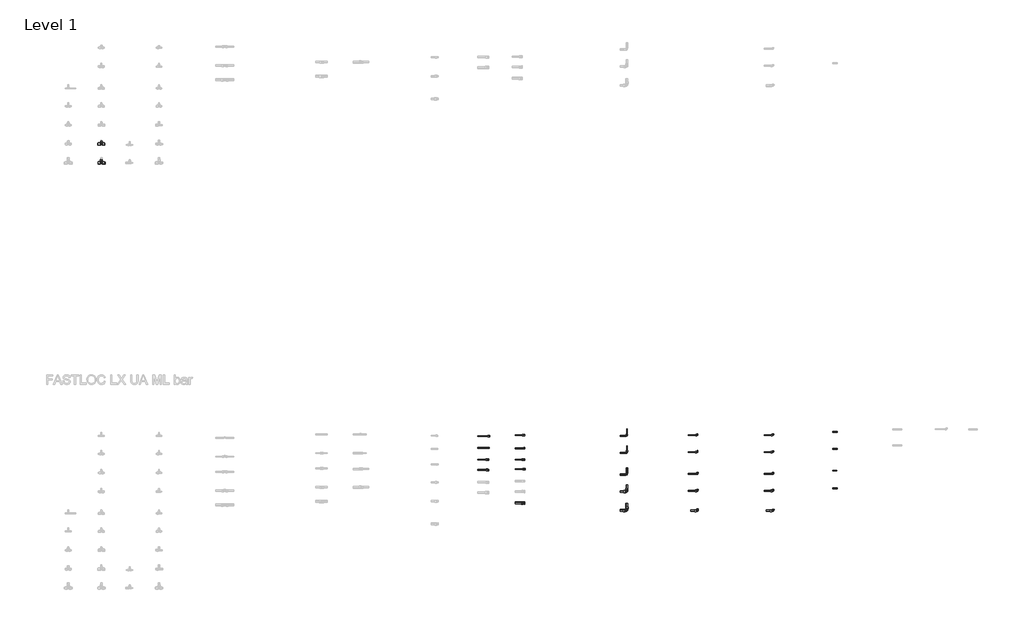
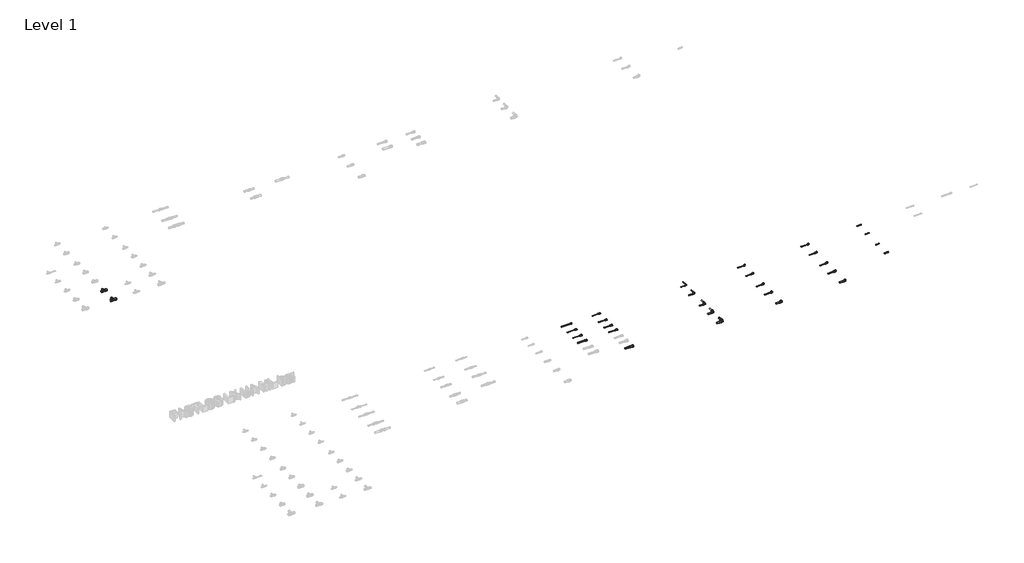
# One storey, part 24 of 78: 36 pipe segments, 26 pipe fittings.
"""IFC4 building model written with IfcOpenShell, lengths in millimetres."""

from ifc_helpers import new_model, si_unit, point, frame, frame_2d, origin, place, context, project, spatial, circle_curve, trimmed, segment, composite_curve, outline, extrude, transform, mapped, element, save
from components import pipe_fitting_836a2278, pipe_fitting_b55198ad, pipe_fitting_8d4eabeb, pipe_fitting_310333dd, pipe_fitting_15165f03, pipe_fitting_7e3be5b8, pipe_fitting_a340ff43, pipe_fitting_d52baa13, pipe_fitting_c8bca06d, pipe_fitting_80b7091b, pipe_fitting_ce7225c3, pipe_fitting_e4b23f8c, pipe_fitting_5776f994, pipe_fitting_edf19c19, pipe_fitting_f2230aa0, pipe_fitting_b873231b, pipe_fitting_68aa3d98, pipe_fitting_5e5f22e4, pipe_fitting_2c1ed7f0, pipe_fitting_ea484583, pipe_fitting_c3764643, pipe_fitting_b34869ee, pipe_fitting_108ee799, pipe_fitting_f8d70d0e, pipe_fitting_18fcccac, pipe_fitting_f7ee4d9f

model = new_model("IFC4")

# Units and contexts
model_context = context("Model", 3, world=origin())
ifc_project = project(units=[si_unit("LENGTHUNIT", "METRE", prefix="MILLI")], contexts=[model_context])

# Site, building, storey
site = spatial("IfcSite", under=ifc_project)
building = spatial("IfcBuilding", under=site)
storey = spatial("IfcBuildingStorey", under=building, Name="Level 1", Elevation=0.0)

# Pipe fittings
placement = place(None, origin())
pipe_fitting_shape = pipe_fitting_836a2278(model_context)
element("IfcPipeFitting", 1, ObjectType="FASTLOC_Adapter_LX, with internal thread : FSL A internal UA", at=placement, inside=storey, context=model_context, shape_type="MappedRepresentation", body=[
    mapped(pipe_fitting_shape, transform((8631.9138788, -10246.1148632, 0.0), x_axis=(1.0, 0.0, 0.0), y_axis=(0.0, 1.0, 0.0), z_axis=(0.0, 0.0, 1.0))),
])
pipe_fitting_2_shape = pipe_fitting_b55198ad(model_context)
element("IfcPipeFitting", 2, ObjectType="FASTLOC_Corner LX : FSL C LX UA", at=placement, inside=storey, context=model_context, shape_type="MappedRepresentation", body=[
    mapped(pipe_fitting_2_shape, transform((11545.4707441, -10238.8136389, 0.0), x_axis=(1.0, 0.0, 0.0), y_axis=(0.0, 1.0, 0.0), z_axis=(0.0, 0.0, 1.0))),
])
pipe_fitting_3_shape = pipe_fitting_8d4eabeb(model_context)
element("IfcPipeFitting", 3, ObjectType="FASTLOC_Elbow with female thread LX : FSL A internal UA", at=placement, inside=storey, context=model_context, shape_type="MappedRepresentation", body=[
    mapped(pipe_fitting_3_shape, transform((14636.9744513, -10224.4914884, 0.0), x_axis=(1.0, 0.0, 0.0), y_axis=(0.0, 1.0, 0.0), z_axis=(0.0, 0.0, 1.0))),
])
pipe_fitting_4_shape = pipe_fitting_310333dd(model_context)
element("IfcPipeFitting", 4, ObjectType="FASTLOC_Elbow with male thread LX : FSL A internal UA", at=placement, inside=storey, context=model_context, shape_type="MappedRepresentation", body=[
    mapped(pipe_fitting_4_shape, transform((13036.9744513, -10584.4914884, 0.0), x_axis=(1.0, 0.0, 0.0), y_axis=(0.0, 1.0, 0.0), z_axis=(0.0, 0.0, 1.0))),
])
pipe_fitting_5_shape = pipe_fitting_15165f03(model_context)
element("IfcPipeFitting", 5, ObjectType="FASTLOC_T-piece_LX : FSL T-Piece LX HU", at=placement, inside=storey, context=model_context, shape_type="MappedRepresentation", body=[
    mapped(pipe_fitting_5_shape, transform((426.7498072, -4060.2405791, 0.0), x_axis=(1.0, 0.0, 0.0), y_axis=(0.0, 1.0, 0.0), z_axis=(0.0, 0.0, 1.0))),
])
pipe_fitting_6_shape = pipe_fitting_7e3be5b8(model_context)
element("IfcPipeFitting", 6, ObjectType="FASTLOC_T-piece_LX : FSL T-Piece LX HU", at=placement, inside=storey, context=model_context, shape_type="MappedRepresentation", body=[
    mapped(pipe_fitting_6_shape, transform((426.7498072, -4460.2405791, 0.0), x_axis=(1.0, 0.0, 0.0), y_axis=(0.0, 1.0, 0.0), z_axis=(0.0, 0.0, 1.0))),
])
pipe_fitting_7_shape = pipe_fitting_a340ff43(model_context)
element("IfcPipeFitting", 7, ObjectType="FASTLOC_Adapter with union nut LX : FSL A union nut UA", at=placement, inside=storey, context=model_context, shape_type="MappedRepresentation", body=[
    mapped(pipe_fitting_7_shape, transform((9358.4862587, -10502.8541738, 0.0), x_axis=(1.0, 0.0, 0.0), y_axis=(0.0, 1.0, 0.0), z_axis=(0.0, 0.0, 1.0))),
])
pipe_fitting_8_shape = pipe_fitting_d52baa13(model_context)
element("IfcPipeFitting", 8, ObjectType="FASTLOC_Adapter with union nut LX : FSL A union nut UA", at=placement, inside=storey, context=model_context, shape_type="MappedRepresentation", body=[
    mapped(pipe_fitting_8_shape, transform((9358.4862587, -10742.8541738, 0.0), x_axis=(1.0, 0.0, 0.0), y_axis=(0.0, 1.0, 0.0), z_axis=(0.0, 0.0, 1.0))),
])
pipe_fitting_9_shape = pipe_fitting_c8bca06d(model_context)
element("IfcPipeFitting", 9, ObjectType="FASTLOC_Adapter with union nut LX : FSL A union nut UA", at=placement, inside=storey, context=model_context, shape_type="MappedRepresentation", body=[
    mapped(pipe_fitting_9_shape, transform((9372.6283943, -10943.7120382, 0.0), x_axis=(1.0, 0.0, 0.0), y_axis=(0.0, 1.0, 0.0), z_axis=(0.0, 0.0, 1.0))),
])
pipe_fitting_10_shape = pipe_fitting_80b7091b(model_context)
element("IfcPipeFitting", 10, ObjectType="FASTLOC_Adapter with union nut LX : FSL A union nut UA", at=placement, inside=storey, context=model_context, shape_type="MappedRepresentation", body=[
    mapped(pipe_fitting_10_shape, transform((9358.4862587, -11657.8541738, 0.0), x_axis=(1.0, 0.0, 0.0), y_axis=(0.0, 1.0, 0.0), z_axis=(0.0, 0.0, 1.0))),
])
pipe_fitting_11_shape = pipe_fitting_ce7225c3(model_context)
element("IfcPipeFitting", 11, ObjectType="FASTLOC_Adapter with union nut LX : FSL A union nut UA", at=placement, inside=storey, context=model_context, shape_type="MappedRepresentation", body=[
    mapped(pipe_fitting_11_shape, transform((9358.4862587, -10222.8541738, 0.0), x_axis=(1.0, 0.0, 0.0), y_axis=(0.0, 1.0, 0.0), z_axis=(0.0, 0.0, 1.0))),
])
pipe_fitting_12_shape = pipe_fitting_e4b23f8c(model_context)
element("IfcPipeFitting", 12, ObjectType="FASTLOC_Corner LX : FSL C LX UA", at=placement, inside=storey, context=model_context, shape_type="MappedRepresentation", body=[
    mapped(pipe_fitting_12_shape, transform((11545.4707441, -10598.8136389, 0.0), x_axis=(1.0, 0.0, 0.0), y_axis=(0.0, 1.0, 0.0), z_axis=(0.0, 0.0, 1.0))),
])
pipe_fitting_13_shape = pipe_fitting_5776f994(model_context)
element("IfcPipeFitting", 13, ObjectType="FASTLOC_Corner LX : FSL C LX UA", at=placement, inside=storey, context=model_context, shape_type="MappedRepresentation", body=[
    mapped(pipe_fitting_13_shape, transform((11545.4707441, -11058.8136389, 0.0), x_axis=(1.0, 0.0, 0.0), y_axis=(0.0, 1.0, 0.0), z_axis=(0.0, 0.0, 1.0))),
])
pipe_fitting_14_shape = pipe_fitting_edf19c19(model_context)
element("IfcPipeFitting", 14, ObjectType="FASTLOC_Corner LX : FSL C LX UA", at=placement, inside=storey, context=model_context, shape_type="MappedRepresentation", body=[
    mapped(pipe_fitting_14_shape, transform((11545.4707441, -11418.8136389, 0.0), x_axis=(1.0, 0.0, 0.0), y_axis=(0.0, 1.0, 0.0), z_axis=(0.0, 0.0, 1.0))),
])
pipe_fitting_15_shape = pipe_fitting_f2230aa0(model_context)
element("IfcPipeFitting", 15, ObjectType="FASTLOC_Corner LX : FSL C LX UA", at=placement, inside=storey, context=model_context, shape_type="MappedRepresentation", body=[
    mapped(pipe_fitting_15_shape, transform((11545.4707441, -11818.8136389, 0.0), x_axis=(1.0, 0.0, 0.0), y_axis=(0.0, 1.0, 0.0), z_axis=(0.0, 0.0, 1.0))),
])
pipe_fitting_16_shape = pipe_fitting_b873231b(model_context)
element("IfcPipeFitting", 16, ObjectType="FASTLOC_Elbow with male thread LX : FSL A internal UA", at=placement, inside=storey, context=model_context, shape_type="MappedRepresentation", body=[
    mapped(pipe_fitting_16_shape, transform((13036.9744513, -11404.4914884, 0.0), x_axis=(1.0, 0.0, 0.0), y_axis=(0.0, 1.0, 0.0), z_axis=(0.0, 0.0, 1.0))),
])
pipe_fitting_17_shape = pipe_fitting_68aa3d98(model_context)
element("IfcPipeFitting", 17, ObjectType="FASTLOC_Elbow with male thread LX : FSL A internal UA", at=placement, inside=storey, context=model_context, shape_type="MappedRepresentation", body=[
    mapped(pipe_fitting_17_shape, transform((13036.9744513, -11824.4914884, 0.0), x_axis=(1.0, 0.0, 0.0), y_axis=(0.0, 1.0, 0.0), z_axis=(0.0, 0.0, 1.0))),
])
pipe_fitting_18_shape = pipe_fitting_5e5f22e4(model_context)
element("IfcPipeFitting", 18, ObjectType="FASTLOC_Elbow with male thread LX : FSL A internal UA", at=placement, inside=storey, context=model_context, shape_type="MappedRepresentation", body=[
    mapped(pipe_fitting_18_shape, transform((13036.9744513, -11044.4914884, 0.0), x_axis=(1.0, 0.0, 0.0), y_axis=(0.0, 1.0, 0.0), z_axis=(0.0, 0.0, 1.0))),
])
pipe_fitting_19_shape = pipe_fitting_2c1ed7f0(model_context)
element("IfcPipeFitting", 19, ObjectType="FASTLOC_Elbow with male thread LX : FSL A internal UA", at=placement, inside=storey, context=model_context, shape_type="MappedRepresentation", body=[
    mapped(pipe_fitting_19_shape, transform((13036.9744513, -10224.4914884, 0.0), x_axis=(1.0, 0.0, 0.0), y_axis=(0.0, 1.0, 0.0), z_axis=(0.0, 0.0, 1.0))),
])
pipe_fitting_20_shape = pipe_fitting_ea484583(model_context)
element("IfcPipeFitting", 20, ObjectType="FASTLOC_Elbow with female thread LX : FSL A internal UA", at=placement, inside=storey, context=model_context, shape_type="MappedRepresentation", body=[
    mapped(pipe_fitting_20_shape, transform((14636.9744513, -11404.4914884, 0.0), x_axis=(1.0, 0.0, 0.0), y_axis=(0.0, 1.0, 0.0), z_axis=(0.0, 0.0, 1.0))),
])
pipe_fitting_21_shape = pipe_fitting_c3764643(model_context)
element("IfcPipeFitting", 21, ObjectType="FASTLOC_Elbow with female thread LX : FSL A internal UA", at=placement, inside=storey, context=model_context, shape_type="MappedRepresentation", body=[
    mapped(pipe_fitting_21_shape, transform((14636.9744513, -11824.4914884, 0.0), x_axis=(1.0, 0.0, 0.0), y_axis=(0.0, 1.0, 0.0), z_axis=(0.0, 0.0, 1.0))),
])
pipe_fitting_22_shape = pipe_fitting_b34869ee(model_context)
element("IfcPipeFitting", 22, ObjectType="FASTLOC_Elbow with female thread LX : FSL A internal UA", at=placement, inside=storey, context=model_context, shape_type="MappedRepresentation", body=[
    mapped(pipe_fitting_22_shape, transform((14636.9744513, -10584.4914884, 0.0), x_axis=(1.0, 0.0, 0.0), y_axis=(0.0, 1.0, 0.0), z_axis=(0.0, 0.0, 1.0))),
])
pipe_fitting_23_shape = pipe_fitting_108ee799(model_context)
element("IfcPipeFitting", 23, ObjectType="FASTLOC_Elbow with female thread LX : FSL A internal UA", at=placement, inside=storey, context=model_context, shape_type="MappedRepresentation", body=[
    mapped(pipe_fitting_23_shape, transform((14636.9744513, -11044.4914884, 0.0), x_axis=(1.0, 0.0, 0.0), y_axis=(0.0, 1.0, 0.0), z_axis=(0.0, 0.0, 1.0))),
])
pipe_fitting_24_shape = pipe_fitting_f8d70d0e(model_context)
element("IfcPipeFitting", 24, ObjectType="FASTLOC_Adapter_LX, with internal thread : FSL A internal UA", at=placement, inside=storey, context=model_context, shape_type="MappedRepresentation", body=[
    mapped(pipe_fitting_24_shape, transform((8602.7717432, -10740.2569989, 0.0), x_axis=(1.0, 0.0, 0.0), y_axis=(0.0, 1.0, 0.0), z_axis=(0.0, 0.0, 1.0))),
])
pipe_fitting_25_shape = pipe_fitting_18fcccac(model_context)
element("IfcPipeFitting", 25, ObjectType="FASTLOC_Adapter_LX, with internal thread : FSL A internal UA", at=placement, inside=storey, context=model_context, shape_type="MappedRepresentation", body=[
    mapped(pipe_fitting_25_shape, transform((8602.7717432, -10960.2569989, 0.0), x_axis=(1.0, 0.0, 0.0), y_axis=(0.0, 1.0, 0.0), z_axis=(0.0, 0.0, 1.0))),
])
pipe_fitting_26_shape = pipe_fitting_f7ee4d9f(model_context)
element("IfcPipeFitting", 26, ObjectType="FASTLOC_Adapter_LX, with internal thread : FSL A internal UA", at=placement, inside=storey, context=model_context, shape_type="MappedRepresentation", body=[
    mapped(pipe_fitting_26_shape, transform((8619.5138788, -10492.5715861, 0.0), x_axis=(1.0, 0.0, 0.0), y_axis=(0.0, 1.0, 0.0), z_axis=(0.0, 0.0, 1.0))),
])

# Pipe segments
element("IfcPipeSegment", 27, ObjectType="FASTLOC LX ML HU bar", at=placement, inside=storey, context=model_context, shape_type="SweptSolid", body=[
    extrude(outline(composite_curve([segment(trimmed(circle_curve(frame_2d((-4060.2405791, 0.0)), 20.0), [point((-4080.2405791, 0.0))], [point((-4060.2405791, 20.0))], False, "CARTESIAN"), True, "CONTINUOUS"), segment(trimmed(circle_curve(frame_2d((-4060.2405791, 0.0)), 20.0), [point((-4060.2405791, 20.0))], [point((-4040.2405791, 0.0))], False, "CARTESIAN"), True, "CONTINUOUS"), segment(trimmed(circle_curve(frame_2d((-4060.2405791, 0.0)), 20.0), [point((-4040.2405791, 0.0))], [point((-4060.2405791, -20.0))], False, "CARTESIAN"), True, "CONTINUOUS"), segment(trimmed(circle_curve(frame_2d((-4060.2405791, 0.0)), 20.0), [point((-4060.2405791, -20.0))], [point((-4080.2405791, 0.0))], False, "CARTESIAN"), True, "CONTINUOUS")], self_intersect=False)), frame((452.5498072, 0.0, 0.0), z_axis=(1.0, 0.0, 0.0), x_axis=(0.0, 1.0, 0.0)), (0.0, 0.0, 1.0), 47.8),
])
element("IfcPipeSegment", 28, ObjectType="FASTLOC LX ML HU bar", at=placement, inside=storey, context=model_context, shape_type="SweptSolid", body=[
    extrude(outline(composite_curve([segment(trimmed(circle_curve(frame_2d((-4060.2405791, 0.0)), 20.0), [point((-4040.2405791, 0.0))], [point((-4060.2405791, -20.0))], False, "CARTESIAN"), True, "CONTINUOUS"), segment(trimmed(circle_curve(frame_2d((-4060.2405791, 0.0)), 20.0), [point((-4060.2405791, -20.0))], [point((-4080.2405791, 0.0))], False, "CARTESIAN"), True, "CONTINUOUS"), segment(trimmed(circle_curve(frame_2d((-4060.2405791, 0.0)), 20.0), [point((-4080.2405791, 0.0))], [point((-4060.2405791, 20.0))], False, "CARTESIAN"), True, "CONTINUOUS"), segment(trimmed(circle_curve(frame_2d((-4060.2405791, 0.0)), 20.0), [point((-4060.2405791, 20.0))], [point((-4040.2405791, 0.0))], False, "CARTESIAN"), True, "CONTINUOUS")], self_intersect=False)), frame((353.1498072, 0.0, 0.0), z_axis=(1.0, 0.0, 0.0), x_axis=(0.0, 1.0, 0.0)), (0.0, 0.0, 1.0), 47.8),
])
element("IfcPipeSegment", 29, ObjectType="FASTLOC LX ML HU bar", at=placement, inside=storey, context=model_context, shape_type="SweptSolid", body=[
    extrude(outline(composite_curve([segment(trimmed(circle_curve(frame_2d((-4460.2405791, 0.0)), 20.0), [point((-4480.2405791, 0.0))], [point((-4460.2405791, 20.0))], False, "CARTESIAN"), True, "CONTINUOUS"), segment(trimmed(circle_curve(frame_2d((-4460.2405791, 0.0)), 20.0), [point((-4460.2405791, 20.0))], [point((-4440.2405791, 0.0))], False, "CARTESIAN"), True, "CONTINUOUS"), segment(trimmed(circle_curve(frame_2d((-4460.2405791, 0.0)), 20.0), [point((-4440.2405791, 0.0))], [point((-4460.2405791, -20.0))], False, "CARTESIAN"), True, "CONTINUOUS"), segment(trimmed(circle_curve(frame_2d((-4460.2405791, 0.0)), 20.0), [point((-4460.2405791, -20.0))], [point((-4480.2405791, 0.0))], False, "CARTESIAN"), True, "CONTINUOUS")], self_intersect=False)), frame((455.3498072, 0.0, 0.0), z_axis=(1.0, 0.0, 0.0), x_axis=(0.0, 1.0, 0.0)), (0.0, 0.0, 1.0), 52.8),
])
element("IfcPipeSegment", 30, ObjectType="FASTLOC LX ML UA bar", at=placement, inside=storey, context=model_context, shape_type="SweptSolid", body=[
    extrude(outline(composite_curve([segment(trimmed(circle_curve(frame_2d((-10246.1148632, 0.0)), 8.0), [point((-10238.1148632, 0.0))], [point((-10246.1148632, -8.0))], False, "CARTESIAN"), True, "CONTINUOUS"), segment(trimmed(circle_curve(frame_2d((-10246.1148632, 0.0)), 8.0), [point((-10246.1148632, -8.0))], [point((-10254.1148632, 0.0))], False, "CARTESIAN"), True, "CONTINUOUS"), segment(trimmed(circle_curve(frame_2d((-10246.1148632, 0.0)), 8.0), [point((-10254.1148632, 0.0))], [point((-10246.1148632, 8.0))], False, "CARTESIAN"), True, "CONTINUOUS"), segment(trimmed(circle_curve(frame_2d((-10246.1148632, 0.0)), 8.0), [point((-10246.1148632, 8.0))], [point((-10238.1148632, 0.0))], False, "CARTESIAN"), True, "CONTINUOUS")], self_intersect=False)), frame((8390.3717432, 0.0, 0.0), z_axis=(1.0, 0.0, 0.0), x_axis=(0.0, 1.0, 0.0)), (0.0, 0.0, 1.0), 229.1421356),
])
element("IfcPipeSegment", 31, ObjectType="FASTLOC LX ML UA bar", at=placement, inside=storey, context=model_context, shape_type="SweptSolid", body=[
    extrude(outline(composite_curve([segment(trimmed(circle_curve(frame_2d((-10238.8136389, 0.0)), 8.0), [point((-10230.8136389, 0.0))], [point((-10238.8136389, -8.0))], False, "CARTESIAN"), True, "CONTINUOUS"), segment(trimmed(circle_curve(frame_2d((-10238.8136389, 0.0)), 8.0), [point((-10238.8136389, -8.0))], [point((-10246.8136389, 0.0))], False, "CARTESIAN"), True, "CONTINUOUS"), segment(trimmed(circle_curve(frame_2d((-10238.8136389, 0.0)), 8.0), [point((-10246.8136389, 0.0))], [point((-10238.8136389, 8.0))], False, "CARTESIAN"), True, "CONTINUOUS"), segment(trimmed(circle_curve(frame_2d((-10238.8136389, 0.0)), 8.0), [point((-10238.8136389, 8.0))], [point((-10230.8136389, 0.0))], False, "CARTESIAN"), True, "CONTINUOUS")], self_intersect=False)), frame((11403.3707441, 0.0, 0.0), z_axis=(1.0, 0.0, 0.0), x_axis=(0.0, 1.0, 0.0)), (0.0, 0.0, 1.0), 120.0),
])
element("IfcPipeSegment", 32, ObjectType="FASTLOC LX ML UA bar", at=placement, inside=storey, context=model_context, shape_type="SweptSolid", body=[
    extrude(outline(composite_curve([segment(trimmed(circle_curve(frame_2d((0.0, 11545.4707441)), 8.0), [point((0.0, 11553.4707441))], [point((8.0, 11545.4707441))], False, "CARTESIAN"), True, "CONTINUOUS"), segment(trimmed(circle_curve(frame_2d((0.0, 11545.4707441)), 8.0), [point((8.0, 11545.4707441))], [point((0.0, 11537.4707441))], False, "CARTESIAN"), True, "CONTINUOUS"), segment(trimmed(circle_curve(frame_2d((0.0, 11545.4707441)), 8.0), [point((0.0, 11537.4707441))], [point((-8.0, 11545.4707441))], False, "CARTESIAN"), True, "CONTINUOUS"), segment(trimmed(circle_curve(frame_2d((0.0, 11545.4707441)), 8.0), [point((-8.0, 11545.4707441))], [point((0.0, 11553.4707441))], False, "CARTESIAN"), True, "CONTINUOUS")], self_intersect=False)), frame((0.0, -10216.7136389, 0.0), z_axis=(0.0, 1.0, 0.0), x_axis=(0.0, 0.0, 1.0)), (0.0, 0.0, 1.0), 125.0),
])
element("IfcPipeSegment", 33, ObjectType="FASTLOC LX ML UA bar", at=placement, inside=storey, context=model_context, shape_type="SweptSolid", body=[
    extrude(outline(composite_curve([segment(trimmed(circle_curve(frame_2d((-10598.8136389, 0.0)), 8.0), [point((-10590.8136389, 0.0))], [point((-10598.8136389, -8.0))], False, "CARTESIAN"), True, "CONTINUOUS"), segment(trimmed(circle_curve(frame_2d((-10598.8136389, 0.0)), 8.0), [point((-10598.8136389, -8.0))], [point((-10606.8136389, 0.0))], False, "CARTESIAN"), True, "CONTINUOUS"), segment(trimmed(circle_curve(frame_2d((-10598.8136389, 0.0)), 8.0), [point((-10606.8136389, 0.0))], [point((-10598.8136389, 8.0))], False, "CARTESIAN"), True, "CONTINUOUS"), segment(trimmed(circle_curve(frame_2d((-10598.8136389, 0.0)), 8.0), [point((-10598.8136389, 8.0))], [point((-10590.8136389, 0.0))], False, "CARTESIAN"), True, "CONTINUOUS")], self_intersect=False)), frame((11403.3707441, 0.0, 0.0), z_axis=(1.0, 0.0, 0.0), x_axis=(0.0, 1.0, 0.0)), (0.0, 0.0, 1.0), 117.5),
])
element("IfcPipeSegment", 34, ObjectType="FASTLOC LX ML UA bar", at=placement, inside=storey, context=model_context, shape_type="SweptSolid", body=[
    extrude(outline(composite_curve([segment(trimmed(circle_curve(frame_2d((0.0, 11545.4707441)), 8.0), [point((0.0, 11553.4707441))], [point((8.0, 11545.4707441))], False, "CARTESIAN"), True, "CONTINUOUS"), segment(trimmed(circle_curve(frame_2d((0.0, 11545.4707441)), 8.0), [point((8.0, 11545.4707441))], [point((0.0, 11537.4707441))], False, "CARTESIAN"), True, "CONTINUOUS"), segment(trimmed(circle_curve(frame_2d((0.0, 11545.4707441)), 8.0), [point((0.0, 11537.4707441))], [point((-8.0, 11545.4707441))], False, "CARTESIAN"), True, "CONTINUOUS"), segment(trimmed(circle_curve(frame_2d((0.0, 11545.4707441)), 8.0), [point((-8.0, 11545.4707441))], [point((0.0, 11553.4707441))], False, "CARTESIAN"), True, "CONTINUOUS")], self_intersect=False)), frame((0.0, -10574.2136389, 0.0), z_axis=(0.0, 1.0, 0.0), x_axis=(0.0, 0.0, 1.0)), (0.0, 0.0, 1.0), 122.5),
])
element("IfcPipeSegment", 35, ObjectType="FASTLOC LX ML UA bar", at=placement, inside=storey, context=model_context, shape_type="SweptSolid", body=[
    extrude(outline(composite_curve([segment(trimmed(circle_curve(frame_2d((-11058.8136389, 0.0)), 12.5), [point((-11046.3136389, 0.0))], [point((-11058.8136389, -12.5))], False, "CARTESIAN"), True, "CONTINUOUS"), segment(trimmed(circle_curve(frame_2d((-11058.8136389, 0.0)), 12.5), [point((-11058.8136389, -12.5))], [point((-11071.3136389, 0.0))], False, "CARTESIAN"), True, "CONTINUOUS"), segment(trimmed(circle_curve(frame_2d((-11058.8136389, 0.0)), 12.5), [point((-11071.3136389, 0.0))], [point((-11058.8136389, 12.5))], False, "CARTESIAN"), True, "CONTINUOUS"), segment(trimmed(circle_curve(frame_2d((-11058.8136389, 0.0)), 12.5), [point((-11058.8136389, 12.5))], [point((-11046.3136389, 0.0))], False, "CARTESIAN"), True, "CONTINUOUS")], self_intersect=False)), frame((11403.3707441, 0.0, 0.0), z_axis=(1.0, 0.0, 0.0), x_axis=(0.0, 1.0, 0.0)), (0.0, 0.0, 1.0), 113.1),
])
element("IfcPipeSegment", 36, ObjectType="FASTLOC LX ML UA bar", at=placement, inside=storey, context=model_context, shape_type="SweptSolid", body=[
    extrude(outline(composite_curve([segment(trimmed(circle_curve(frame_2d((0.0, 11545.4707441)), 12.5), [point((0.0, 11557.9707441))], [point((12.5, 11545.4707441))], False, "CARTESIAN"), True, "CONTINUOUS"), segment(trimmed(circle_curve(frame_2d((0.0, 11545.4707441)), 12.5), [point((12.5, 11545.4707441))], [point((0.0, 11532.9707441))], False, "CARTESIAN"), True, "CONTINUOUS"), segment(trimmed(circle_curve(frame_2d((0.0, 11545.4707441)), 12.5), [point((0.0, 11532.9707441))], [point((-12.5, 11545.4707441))], False, "CARTESIAN"), True, "CONTINUOUS"), segment(trimmed(circle_curve(frame_2d((0.0, 11545.4707441)), 12.5), [point((-12.5, 11545.4707441))], [point((0.0, 11557.9707441))], False, "CARTESIAN"), True, "CONTINUOUS")], self_intersect=False)), frame((0.0, -11029.8136389, 0.0), z_axis=(0.0, 1.0, 0.0), x_axis=(0.0, 0.0, 1.0)), (0.0, 0.0, 1.0), 118.1),
])
element("IfcPipeSegment", 37, ObjectType="FASTLOC LX ML UA bar", at=placement, inside=storey, context=model_context, shape_type="SweptSolid", body=[
    extrude(outline(composite_curve([segment(trimmed(circle_curve(frame_2d((-11418.8136389, 0.0)), 16.0), [point((-11402.8136389, 0.0))], [point((-11418.8136389, -16.0))], False, "CARTESIAN"), True, "CONTINUOUS"), segment(trimmed(circle_curve(frame_2d((-11418.8136389, 0.0)), 16.0), [point((-11418.8136389, -16.0))], [point((-11434.8136389, 0.0))], False, "CARTESIAN"), True, "CONTINUOUS"), segment(trimmed(circle_curve(frame_2d((-11418.8136389, 0.0)), 16.0), [point((-11434.8136389, 0.0))], [point((-11418.8136389, 16.0))], False, "CARTESIAN"), True, "CONTINUOUS"), segment(trimmed(circle_curve(frame_2d((-11418.8136389, 0.0)), 16.0), [point((-11418.8136389, 16.0))], [point((-11402.8136389, 0.0))], False, "CARTESIAN"), True, "CONTINUOUS")], self_intersect=False)), frame((11403.3707441, 0.0, 0.0), z_axis=(1.0, 0.0, 0.0), x_axis=(0.0, 1.0, 0.0)), (0.0, 0.0, 1.0), 107.1),
])
element("IfcPipeSegment", 38, ObjectType="FASTLOC LX ML UA bar", at=placement, inside=storey, context=model_context, shape_type="SweptSolid", body=[
    extrude(outline(composite_curve([segment(trimmed(circle_curve(frame_2d((0.0, 11545.4707441)), 16.0), [point((0.0, 11561.4707441))], [point((16.0, 11545.4707441))], False, "CARTESIAN"), True, "CONTINUOUS"), segment(trimmed(circle_curve(frame_2d((0.0, 11545.4707441)), 16.0), [point((16.0, 11545.4707441))], [point((0.0, 11529.4707441))], False, "CARTESIAN"), True, "CONTINUOUS"), segment(trimmed(circle_curve(frame_2d((0.0, 11545.4707441)), 16.0), [point((0.0, 11529.4707441))], [point((-16.0, 11545.4707441))], False, "CARTESIAN"), True, "CONTINUOUS"), segment(trimmed(circle_curve(frame_2d((0.0, 11545.4707441)), 16.0), [point((-16.0, 11545.4707441))], [point((0.0, 11561.4707441))], False, "CARTESIAN"), True, "CONTINUOUS")], self_intersect=False)), frame((0.0, -11383.8136389, 0.0), z_axis=(0.0, 1.0, 0.0), x_axis=(0.0, 0.0, 1.0)), (0.0, 0.0, 1.0), 112.1),
])
element("IfcPipeSegment", 39, ObjectType="FASTLOC LX ML UA bar", at=placement, inside=storey, context=model_context, shape_type="SweptSolid", body=[
    extrude(outline(composite_curve([segment(trimmed(circle_curve(frame_2d((-11818.8136389, 0.0)), 20.0), [point((-11798.8136389, 0.0))], [point((-11818.8136389, -20.0))], False, "CARTESIAN"), True, "CONTINUOUS"), segment(trimmed(circle_curve(frame_2d((-11818.8136389, 0.0)), 20.0), [point((-11818.8136389, -20.0))], [point((-11838.8136389, 0.0))], False, "CARTESIAN"), True, "CONTINUOUS"), segment(trimmed(circle_curve(frame_2d((-11818.8136389, 0.0)), 20.0), [point((-11838.8136389, 0.0))], [point((-11818.8136389, 20.0))], False, "CARTESIAN"), True, "CONTINUOUS"), segment(trimmed(circle_curve(frame_2d((-11818.8136389, 0.0)), 20.0), [point((-11818.8136389, 20.0))], [point((-11798.8136389, 0.0))], False, "CARTESIAN"), True, "CONTINUOUS")], self_intersect=False)), frame((11403.3707441, 0.0, 0.0), z_axis=(1.0, 0.0, 0.0), x_axis=(0.0, 1.0, 0.0)), (0.0, 0.0, 1.0), 97.4),
])
element("IfcPipeSegment", 40, ObjectType="FASTLOC LX ML UA bar", at=placement, inside=storey, context=model_context, shape_type="SweptSolid", body=[
    extrude(outline(composite_curve([segment(trimmed(circle_curve(frame_2d((0.0, 11545.4707441)), 20.0), [point((0.0, 11565.4707441))], [point((20.0, 11545.4707441))], False, "CARTESIAN"), True, "CONTINUOUS"), segment(trimmed(circle_curve(frame_2d((0.0, 11545.4707441)), 20.0), [point((20.0, 11545.4707441))], [point((0.0, 11525.4707441))], False, "CARTESIAN"), True, "CONTINUOUS"), segment(trimmed(circle_curve(frame_2d((0.0, 11545.4707441)), 20.0), [point((0.0, 11525.4707441))], [point((-20.0, 11545.4707441))], False, "CARTESIAN"), True, "CONTINUOUS"), segment(trimmed(circle_curve(frame_2d((0.0, 11545.4707441)), 20.0), [point((-20.0, 11545.4707441))], [point((0.0, 11565.4707441))], False, "CARTESIAN"), True, "CONTINUOUS")], self_intersect=False)), frame((0.0, -11774.1136389, 0.0), z_axis=(0.0, 1.0, 0.0), x_axis=(0.0, 0.0, 1.0)), (0.0, 0.0, 1.0), 102.4),
])
element("IfcPipeSegment", 41, ObjectType="FASTLOC LX ML UA bar", at=placement, inside=storey, context=model_context, shape_type="SweptSolid", body=[
    extrude(outline(composite_curve([segment(trimmed(circle_curve(frame_2d((-10154.4604595, 0.0)), 8.0), [point((-10146.4604595, 0.0))], [point((-10154.4604595, -8.0))], False, "CARTESIAN"), True, "CONTINUOUS"), segment(trimmed(circle_curve(frame_2d((-10154.4604595, 0.0)), 8.0), [point((-10154.4604595, -8.0))], [point((-10162.4604595, 0.0))], False, "CARTESIAN"), True, "CONTINUOUS"), segment(trimmed(circle_curve(frame_2d((-10154.4604595, 0.0)), 8.0), [point((-10162.4604595, 0.0))], [point((-10154.4604595, 8.0))], False, "CARTESIAN"), True, "CONTINUOUS"), segment(trimmed(circle_curve(frame_2d((-10154.4604595, 0.0)), 8.0), [point((-10154.4604595, 8.0))], [point((-10146.4604595, 0.0))], False, "CARTESIAN"), True, "CONTINUOUS")], self_intersect=False)), frame((15898.9809397, 0.0, 0.0), z_axis=(1.0, 0.0, 0.0), x_axis=(0.0, 1.0, 0.0)), (0.0, 0.0, 1.0), 99.5),
])
element("IfcPipeSegment", 42, ObjectType="FASTLOC LX ML UA bar", at=placement, inside=storey, context=model_context, shape_type="SweptSolid", body=[
    extrude(outline(composite_curve([segment(trimmed(circle_curve(frame_2d((-10514.4604595, 0.0)), 8.0), [point((-10506.4604595, 0.0))], [point((-10514.4604595, -8.0))], False, "CARTESIAN"), True, "CONTINUOUS"), segment(trimmed(circle_curve(frame_2d((-10514.4604595, 0.0)), 8.0), [point((-10514.4604595, -8.0))], [point((-10522.4604595, 0.0))], False, "CARTESIAN"), True, "CONTINUOUS"), segment(trimmed(circle_curve(frame_2d((-10514.4604595, 0.0)), 8.0), [point((-10522.4604595, 0.0))], [point((-10514.4604595, 8.0))], False, "CARTESIAN"), True, "CONTINUOUS"), segment(trimmed(circle_curve(frame_2d((-10514.4604595, 0.0)), 8.0), [point((-10514.4604595, 8.0))], [point((-10506.4604595, 0.0))], False, "CARTESIAN"), True, "CONTINUOUS")], self_intersect=False)), frame((15898.9809397, 0.0, 0.0), z_axis=(1.0, 0.0, 0.0), x_axis=(0.0, 1.0, 0.0)), (0.0, 0.0, 1.0), 99.6),
])
element("IfcPipeSegment", 43, ObjectType="FASTLOC LX ML UA bar", at=placement, inside=storey, context=model_context, shape_type="SweptSolid", body=[
    extrude(outline(composite_curve([segment(trimmed(circle_curve(frame_2d((-10492.5715861, 0.0)), 8.0), [point((-10484.5715861, 0.0))], [point((-10492.5715861, -8.0))], False, "CARTESIAN"), True, "CONTINUOUS"), segment(trimmed(circle_curve(frame_2d((-10492.5715861, 0.0)), 8.0), [point((-10492.5715861, -8.0))], [point((-10500.5715861, 0.0))], False, "CARTESIAN"), True, "CONTINUOUS"), segment(trimmed(circle_curve(frame_2d((-10492.5715861, 0.0)), 8.0), [point((-10500.5715861, 0.0))], [point((-10492.5715861, 8.0))], False, "CARTESIAN"), True, "CONTINUOUS"), segment(trimmed(circle_curve(frame_2d((-10492.5715861, 0.0)), 8.0), [point((-10492.5715861, 8.0))], [point((-10484.5715861, 0.0))], False, "CARTESIAN"), True, "CONTINUOUS")], self_intersect=False)), frame((8390.3717432, 0.0, 0.0), z_axis=(1.0, 0.0, 0.0), x_axis=(0.0, 1.0, 0.0)), (0.0, 0.0, 1.0), 217.4421356),
])
element("IfcPipeSegment", 44, ObjectType="FASTLOC LX ML UA bar", at=placement, inside=storey, context=model_context, shape_type="SweptSolid", body=[
    extrude(outline(composite_curve([segment(trimmed(circle_curve(frame_2d((-10740.2569989, 0.0)), 8.0), [point((-10732.2569989, 0.0))], [point((-10740.2569989, -8.0))], False, "CARTESIAN"), True, "CONTINUOUS"), segment(trimmed(circle_curve(frame_2d((-10740.2569989, 0.0)), 8.0), [point((-10740.2569989, -8.0))], [point((-10748.2569989, 0.0))], False, "CARTESIAN"), True, "CONTINUOUS"), segment(trimmed(circle_curve(frame_2d((-10740.2569989, 0.0)), 8.0), [point((-10748.2569989, 0.0))], [point((-10740.2569989, 8.0))], False, "CARTESIAN"), True, "CONTINUOUS"), segment(trimmed(circle_curve(frame_2d((-10740.2569989, 0.0)), 8.0), [point((-10740.2569989, 8.0))], [point((-10732.2569989, 0.0))], False, "CARTESIAN"), True, "CONTINUOUS")], self_intersect=False)), frame((8390.3717432, 0.0, 0.0), z_axis=(1.0, 0.0, 0.0), x_axis=(0.0, 1.0, 0.0)), (0.0, 0.0, 1.0), 199.1),
])
element("IfcPipeSegment", 45, ObjectType="FASTLOC LX ML UA bar", at=placement, inside=storey, context=model_context, shape_type="SweptSolid", body=[
    extrude(outline(composite_curve([segment(trimmed(circle_curve(frame_2d((-10960.2569989, 0.0)), 12.5), [point((-10947.7569989, 0.0))], [point((-10960.2569989, -12.5))], False, "CARTESIAN"), True, "CONTINUOUS"), segment(trimmed(circle_curve(frame_2d((-10960.2569989, 0.0)), 12.5), [point((-10960.2569989, -12.5))], [point((-10972.7569989, 0.0))], False, "CARTESIAN"), True, "CONTINUOUS"), segment(trimmed(circle_curve(frame_2d((-10960.2569989, 0.0)), 12.5), [point((-10972.7569989, 0.0))], [point((-10960.2569989, 12.5))], False, "CARTESIAN"), True, "CONTINUOUS"), segment(trimmed(circle_curve(frame_2d((-10960.2569989, 0.0)), 12.5), [point((-10960.2569989, 12.5))], [point((-10947.7569989, 0.0))], False, "CARTESIAN"), True, "CONTINUOUS")], self_intersect=False)), frame((8390.3717432, 0.0, 0.0), z_axis=(1.0, 0.0, 0.0), x_axis=(0.0, 1.0, 0.0)), (0.0, 0.0, 1.0), 199.5),
])
element("IfcPipeSegment", 46, ObjectType="FASTLOC LX ML UA bar", at=placement, inside=storey, context=model_context, shape_type="SweptSolid", body=[
    extrude(outline(composite_curve([segment(trimmed(circle_curve(frame_2d((-11404.4914884, 0.0)), 12.5), [point((-11391.9914884, 0.0))], [point((-11404.4914884, -12.5))], False, "CARTESIAN"), True, "CONTINUOUS"), segment(trimmed(circle_curve(frame_2d((-11404.4914884, 0.0)), 12.5), [point((-11404.4914884, -12.5))], [point((-11416.9914884, 0.0))], False, "CARTESIAN"), True, "CONTINUOUS"), segment(trimmed(circle_curve(frame_2d((-11404.4914884, 0.0)), 12.5), [point((-11416.9914884, 0.0))], [point((-11404.4914884, 12.5))], False, "CARTESIAN"), True, "CONTINUOUS"), segment(trimmed(circle_curve(frame_2d((-11404.4914884, 0.0)), 12.5), [point((-11404.4914884, 12.5))], [point((-11391.9914884, 0.0))], False, "CARTESIAN"), True, "CONTINUOUS")], self_intersect=False)), frame((12846.7744513, 0.0, 0.0), z_axis=(1.0, 0.0, 0.0), x_axis=(0.0, 1.0, 0.0)), (0.0, 0.0, 1.0), 166.0),
])
element("IfcPipeSegment", 47, ObjectType="FASTLOC LX ML UA bar", at=placement, inside=storey, context=model_context, shape_type="SweptSolid", body=[
    extrude(outline(composite_curve([segment(trimmed(circle_curve(frame_2d((-11824.4914884, 0.0)), 16.0), [point((-11808.4914884, 0.0))], [point((-11824.4914884, -16.0))], False, "CARTESIAN"), True, "CONTINUOUS"), segment(trimmed(circle_curve(frame_2d((-11824.4914884, 0.0)), 16.0), [point((-11824.4914884, -16.0))], [point((-11840.4914884, 0.0))], False, "CARTESIAN"), True, "CONTINUOUS"), segment(trimmed(circle_curve(frame_2d((-11824.4914884, 0.0)), 16.0), [point((-11840.4914884, 0.0))], [point((-11824.4914884, 16.0))], False, "CARTESIAN"), True, "CONTINUOUS"), segment(trimmed(circle_curve(frame_2d((-11824.4914884, 0.0)), 16.0), [point((-11824.4914884, 16.0))], [point((-11808.4914884, 0.0))], False, "CARTESIAN"), True, "CONTINUOUS")], self_intersect=False)), frame((12894.8744513, 0.0, 0.0), z_axis=(1.0, 0.0, 0.0), x_axis=(0.0, 1.0, 0.0)), (0.0, 0.0, 1.0), 112.4),
])
element("IfcPipeSegment", 48, ObjectType="FASTLOC LX ML UA bar", at=placement, inside=storey, context=model_context, shape_type="SweptSolid", body=[
    extrude(outline(composite_curve([segment(trimmed(circle_curve(frame_2d((-10974.4604595, 0.0)), 8.0), [point((-10966.4604595, 0.0))], [point((-10974.4604595, -8.0))], False, "CARTESIAN"), True, "CONTINUOUS"), segment(trimmed(circle_curve(frame_2d((-10974.4604595, 0.0)), 8.0), [point((-10974.4604595, -8.0))], [point((-10982.4604595, 0.0))], False, "CARTESIAN"), True, "CONTINUOUS"), segment(trimmed(circle_curve(frame_2d((-10974.4604595, 0.0)), 8.0), [point((-10982.4604595, 0.0))], [point((-10974.4604595, 8.0))], False, "CARTESIAN"), True, "CONTINUOUS"), segment(trimmed(circle_curve(frame_2d((-10974.4604595, 0.0)), 8.0), [point((-10974.4604595, 8.0))], [point((-10966.4604595, 0.0))], False, "CARTESIAN"), True, "CONTINUOUS")], self_intersect=False)), frame((15898.9809397, 0.0, 0.0), z_axis=(1.0, 0.0, 0.0), x_axis=(0.0, 1.0, 0.0)), (0.0, 0.0, 1.0), 86.3),
])
element("IfcPipeSegment", 49, ObjectType="FASTLOC LX ML UA bar", at=placement, inside=storey, context=model_context, shape_type="SweptSolid", body=[
    extrude(outline(composite_curve([segment(trimmed(circle_curve(frame_2d((-11350.4604595, 0.0)), 12.5), [point((-11337.9604595, 0.0))], [point((-11350.4604595, -12.5))], False, "CARTESIAN"), True, "CONTINUOUS"), segment(trimmed(circle_curve(frame_2d((-11350.4604595, 0.0)), 12.5), [point((-11350.4604595, -12.5))], [point((-11362.9604595, 0.0))], False, "CARTESIAN"), True, "CONTINUOUS"), segment(trimmed(circle_curve(frame_2d((-11350.4604595, 0.0)), 12.5), [point((-11362.9604595, 0.0))], [point((-11350.4604595, 12.5))], False, "CARTESIAN"), True, "CONTINUOUS"), segment(trimmed(circle_curve(frame_2d((-11350.4604595, 0.0)), 12.5), [point((-11350.4604595, 12.5))], [point((-11337.9604595, 0.0))], False, "CARTESIAN"), True, "CONTINUOUS")], self_intersect=False)), frame((15898.9809397, 0.0, 0.0), z_axis=(1.0, 0.0, 0.0), x_axis=(0.0, 1.0, 0.0)), (0.0, 0.0, 1.0), 95.4),
])
element("IfcPipeSegment", 50, ObjectType="FASTLOC LX ML UA bar", at=placement, inside=storey, context=model_context, shape_type="SweptSolid", body=[
    extrude(outline(composite_curve([segment(trimmed(circle_curve(frame_2d((-10224.4914884, 0.0)), 8.0), [point((-10216.4914884, 0.0))], [point((-10224.4914884, -8.0))], False, "CARTESIAN"), True, "CONTINUOUS"), segment(trimmed(circle_curve(frame_2d((-10224.4914884, 0.0)), 8.0), [point((-10224.4914884, -8.0))], [point((-10232.4914884, 0.0))], False, "CARTESIAN"), True, "CONTINUOUS"), segment(trimmed(circle_curve(frame_2d((-10224.4914884, 0.0)), 8.0), [point((-10232.4914884, 0.0))], [point((-10224.4914884, 8.0))], False, "CARTESIAN"), True, "CONTINUOUS"), segment(trimmed(circle_curve(frame_2d((-10224.4914884, 0.0)), 8.0), [point((-10224.4914884, 8.0))], [point((-10216.4914884, 0.0))], False, "CARTESIAN"), True, "CONTINUOUS")], self_intersect=False)), frame((14446.7744513, 0.0, 0.0), z_axis=(1.0, 0.0, 0.0), x_axis=(0.0, 1.0, 0.0)), (0.0, 0.0, 1.0), 170.0),
])
element("IfcPipeSegment", 51, ObjectType="FASTLOC LX ML UA bar", at=placement, inside=storey, context=model_context, shape_type="SweptSolid", body=[
    extrude(outline(composite_curve([segment(trimmed(circle_curve(frame_2d((-11404.4914884, 0.0)), 12.5), [point((-11391.9914884, 0.0))], [point((-11404.4914884, -12.5))], False, "CARTESIAN"), True, "CONTINUOUS"), segment(trimmed(circle_curve(frame_2d((-11404.4914884, 0.0)), 12.5), [point((-11404.4914884, -12.5))], [point((-11416.9914884, 0.0))], False, "CARTESIAN"), True, "CONTINUOUS"), segment(trimmed(circle_curve(frame_2d((-11404.4914884, 0.0)), 12.5), [point((-11416.9914884, 0.0))], [point((-11404.4914884, 12.5))], False, "CARTESIAN"), True, "CONTINUOUS"), segment(trimmed(circle_curve(frame_2d((-11404.4914884, 0.0)), 12.5), [point((-11404.4914884, 12.5))], [point((-11391.9914884, 0.0))], False, "CARTESIAN"), True, "CONTINUOUS")], self_intersect=False)), frame((14446.7744513, 0.0, 0.0), z_axis=(1.0, 0.0, 0.0), x_axis=(0.0, 1.0, 0.0)), (0.0, 0.0, 1.0), 163.2),
])
element("IfcPipeSegment", 52, ObjectType="FASTLOC LX ML UA bar", at=placement, inside=storey, context=model_context, shape_type="SweptSolid", body=[
    extrude(outline(composite_curve([segment(trimmed(circle_curve(frame_2d((-11824.4914884, 0.0)), 16.0), [point((-11808.4914884, 0.0))], [point((-11824.4914884, -16.0))], False, "CARTESIAN"), True, "CONTINUOUS"), segment(trimmed(circle_curve(frame_2d((-11824.4914884, 0.0)), 16.0), [point((-11824.4914884, -16.0))], [point((-11840.4914884, 0.0))], False, "CARTESIAN"), True, "CONTINUOUS"), segment(trimmed(circle_curve(frame_2d((-11824.4914884, 0.0)), 16.0), [point((-11840.4914884, 0.0))], [point((-11824.4914884, 16.0))], False, "CARTESIAN"), True, "CONTINUOUS"), segment(trimmed(circle_curve(frame_2d((-11824.4914884, 0.0)), 16.0), [point((-11824.4914884, 16.0))], [point((-11808.4914884, 0.0))], False, "CARTESIAN"), True, "CONTINUOUS")], self_intersect=False)), frame((14494.8744513, 0.0, 0.0), z_axis=(1.0, 0.0, 0.0), x_axis=(0.0, 1.0, 0.0)), (0.0, 0.0, 1.0), 110.1),
])
element("IfcPipeSegment", 53, ObjectType="FASTLOC LX ML UA bar", at=placement, inside=storey, context=model_context, shape_type="SweptSolid", body=[
    extrude(outline(composite_curve([segment(trimmed(circle_curve(frame_2d((-10502.8541738, 0.0)), 8.0), [point((-10494.8541738, 0.0))], [point((-10502.8541738, -8.0))], False, "CARTESIAN"), True, "CONTINUOUS"), segment(trimmed(circle_curve(frame_2d((-10502.8541738, 0.0)), 8.0), [point((-10502.8541738, -8.0))], [point((-10510.8541738, 0.0))], False, "CARTESIAN"), True, "CONTINUOUS"), segment(trimmed(circle_curve(frame_2d((-10502.8541738, 0.0)), 8.0), [point((-10510.8541738, 0.0))], [point((-10502.8541738, 8.0))], False, "CARTESIAN"), True, "CONTINUOUS"), segment(trimmed(circle_curve(frame_2d((-10502.8541738, 0.0)), 8.0), [point((-10502.8541738, 8.0))], [point((-10494.8541738, 0.0))], False, "CARTESIAN"), True, "CONTINUOUS")], self_intersect=False)), frame((9179.4862587, 0.0, 0.0), z_axis=(1.0, 0.0, 0.0), x_axis=(0.0, 1.0, 0.0)), (0.0, 0.0, 1.0), 170.0),
])
element("IfcPipeSegment", 54, ObjectType="FASTLOC LX ML UA bar", at=placement, inside=storey, context=model_context, shape_type="SweptSolid", body=[
    extrude(outline(composite_curve([segment(trimmed(circle_curve(frame_2d((-10742.8541738, 0.0)), 8.0), [point((-10734.8541738, 0.0))], [point((-10742.8541738, -8.0))], False, "CARTESIAN"), True, "CONTINUOUS"), segment(trimmed(circle_curve(frame_2d((-10742.8541738, 0.0)), 8.0), [point((-10742.8541738, -8.0))], [point((-10750.8541738, 0.0))], False, "CARTESIAN"), True, "CONTINUOUS"), segment(trimmed(circle_curve(frame_2d((-10742.8541738, 0.0)), 8.0), [point((-10750.8541738, 0.0))], [point((-10742.8541738, 8.0))], False, "CARTESIAN"), True, "CONTINUOUS"), segment(trimmed(circle_curve(frame_2d((-10742.8541738, 0.0)), 8.0), [point((-10742.8541738, 8.0))], [point((-10734.8541738, 0.0))], False, "CARTESIAN"), True, "CONTINUOUS")], self_intersect=False)), frame((9179.4862587, 0.0, 0.0), z_axis=(1.0, 0.0, 0.0), x_axis=(0.0, 1.0, 0.0)), (0.0, 0.0, 1.0), 170.0),
])
element("IfcPipeSegment", 55, ObjectType="FASTLOC LX ML UA bar", at=placement, inside=storey, context=model_context, shape_type="SweptSolid", body=[
    extrude(outline(composite_curve([segment(trimmed(circle_curve(frame_2d((-11657.8541738, 0.0)), 20.0), [point((-11637.8541738, 0.0))], [point((-11657.8541738, -20.0))], False, "CARTESIAN"), True, "CONTINUOUS"), segment(trimmed(circle_curve(frame_2d((-11657.8541738, 0.0)), 20.0), [point((-11657.8541738, -20.0))], [point((-11677.8541738, 0.0))], False, "CARTESIAN"), True, "CONTINUOUS"), segment(trimmed(circle_curve(frame_2d((-11657.8541738, 0.0)), 20.0), [point((-11677.8541738, 0.0))], [point((-11657.8541738, 20.0))], False, "CARTESIAN"), True, "CONTINUOUS"), segment(trimmed(circle_curve(frame_2d((-11657.8541738, 0.0)), 20.0), [point((-11657.8541738, 20.0))], [point((-11637.8541738, 0.0))], False, "CARTESIAN"), True, "CONTINUOUS")], self_intersect=False)), frame((9179.4862587, 0.0, 0.0), z_axis=(1.0, 0.0, 0.0), x_axis=(0.0, 1.0, 0.0)), (0.0, 0.0, 1.0), 167.5),
])
element("IfcPipeSegment", 56, ObjectType="FASTLOC LX ML UA bar", at=placement, inside=storey, context=model_context, shape_type="SweptSolid", body=[
    extrude(outline(composite_curve([segment(trimmed(circle_curve(frame_2d((-10943.7120382, 0.0)), 8.0), [point((-10935.7120382, 0.0))], [point((-10943.7120382, -8.0))], False, "CARTESIAN"), True, "CONTINUOUS"), segment(trimmed(circle_curve(frame_2d((-10943.7120382, 0.0)), 8.0), [point((-10943.7120382, -8.0))], [point((-10951.7120382, 0.0))], False, "CARTESIAN"), True, "CONTINUOUS"), segment(trimmed(circle_curve(frame_2d((-10943.7120382, 0.0)), 8.0), [point((-10951.7120382, 0.0))], [point((-10943.7120382, 8.0))], False, "CARTESIAN"), True, "CONTINUOUS"), segment(trimmed(circle_curve(frame_2d((-10943.7120382, 0.0)), 8.0), [point((-10943.7120382, 8.0))], [point((-10935.7120382, 0.0))], False, "CARTESIAN"), True, "CONTINUOUS")], self_intersect=False)), frame((9179.4862587, 0.0, 0.0), z_axis=(1.0, 0.0, 0.0), x_axis=(0.0, 1.0, 0.0)), (0.0, 0.0, 1.0), 184.1421356),
])
element("IfcPipeSegment", 57, ObjectType="FASTLOC LX ML UA bar", at=placement, inside=storey, context=model_context, shape_type="SweptSolid", body=[
    extrude(outline(composite_curve([segment(trimmed(circle_curve(frame_2d((-10222.8541738, 0.0)), 8.0), [point((-10214.8541738, 0.0))], [point((-10222.8541738, -8.0))], False, "CARTESIAN"), True, "CONTINUOUS"), segment(trimmed(circle_curve(frame_2d((-10222.8541738, 0.0)), 8.0), [point((-10222.8541738, -8.0))], [point((-10230.8541738, 0.0))], False, "CARTESIAN"), True, "CONTINUOUS"), segment(trimmed(circle_curve(frame_2d((-10222.8541738, 0.0)), 8.0), [point((-10230.8541738, 0.0))], [point((-10222.8541738, 8.0))], False, "CARTESIAN"), True, "CONTINUOUS"), segment(trimmed(circle_curve(frame_2d((-10222.8541738, 0.0)), 8.0), [point((-10222.8541738, 8.0))], [point((-10214.8541738, 0.0))], False, "CARTESIAN"), True, "CONTINUOUS")], self_intersect=False)), frame((9179.4862587, 0.0, 0.0), z_axis=(1.0, 0.0, 0.0), x_axis=(0.0, 1.0, 0.0)), (0.0, 0.0, 1.0), 170.0),
])
element("IfcPipeSegment", 58, ObjectType="FASTLOC LX ML UA bar", at=placement, inside=storey, context=model_context, shape_type="SweptSolid", body=[
    extrude(outline(composite_curve([segment(trimmed(circle_curve(frame_2d((-11044.4914884, 0.0)), 8.0), [point((-11036.4914884, 0.0))], [point((-11044.4914884, -8.0))], False, "CARTESIAN"), True, "CONTINUOUS"), segment(trimmed(circle_curve(frame_2d((-11044.4914884, 0.0)), 8.0), [point((-11044.4914884, -8.0))], [point((-11052.4914884, 0.0))], False, "CARTESIAN"), True, "CONTINUOUS"), segment(trimmed(circle_curve(frame_2d((-11044.4914884, 0.0)), 8.0), [point((-11052.4914884, 0.0))], [point((-11044.4914884, 8.0))], False, "CARTESIAN"), True, "CONTINUOUS"), segment(trimmed(circle_curve(frame_2d((-11044.4914884, 0.0)), 8.0), [point((-11044.4914884, 8.0))], [point((-11036.4914884, 0.0))], False, "CARTESIAN"), True, "CONTINUOUS")], self_intersect=False)), frame((12846.7744513, 0.0, 0.0), z_axis=(1.0, 0.0, 0.0), x_axis=(0.0, 1.0, 0.0)), (0.0, 0.0, 1.0), 167.0),
])
element("IfcPipeSegment", 59, ObjectType="FASTLOC LX ML UA bar", at=placement, inside=storey, context=model_context, shape_type="SweptSolid", body=[
    extrude(outline(composite_curve([segment(trimmed(circle_curve(frame_2d((-10584.4914884, 0.0)), 8.0), [point((-10576.4914884, 0.0))], [point((-10584.4914884, -8.0))], False, "CARTESIAN"), True, "CONTINUOUS"), segment(trimmed(circle_curve(frame_2d((-10584.4914884, 0.0)), 8.0), [point((-10584.4914884, -8.0))], [point((-10592.4914884, 0.0))], False, "CARTESIAN"), True, "CONTINUOUS"), segment(trimmed(circle_curve(frame_2d((-10584.4914884, 0.0)), 8.0), [point((-10592.4914884, 0.0))], [point((-10584.4914884, 8.0))], False, "CARTESIAN"), True, "CONTINUOUS"), segment(trimmed(circle_curve(frame_2d((-10584.4914884, 0.0)), 8.0), [point((-10584.4914884, 8.0))], [point((-10576.4914884, 0.0))], False, "CARTESIAN"), True, "CONTINUOUS")], self_intersect=False)), frame((12846.7744513, 0.0, 0.0), z_axis=(1.0, 0.0, 0.0), x_axis=(0.0, 1.0, 0.0)), (0.0, 0.0, 1.0), 170.0),
])
element("IfcPipeSegment", 60, ObjectType="FASTLOC LX ML UA bar", at=placement, inside=storey, context=model_context, shape_type="SweptSolid", body=[
    extrude(outline(composite_curve([segment(trimmed(circle_curve(frame_2d((-10224.4914884, 0.0)), 8.0), [point((-10216.4914884, 0.0))], [point((-10224.4914884, -8.0))], False, "CARTESIAN"), True, "CONTINUOUS"), segment(trimmed(circle_curve(frame_2d((-10224.4914884, 0.0)), 8.0), [point((-10224.4914884, -8.0))], [point((-10232.4914884, 0.0))], False, "CARTESIAN"), True, "CONTINUOUS"), segment(trimmed(circle_curve(frame_2d((-10224.4914884, 0.0)), 8.0), [point((-10232.4914884, 0.0))], [point((-10224.4914884, 8.0))], False, "CARTESIAN"), True, "CONTINUOUS"), segment(trimmed(circle_curve(frame_2d((-10224.4914884, 0.0)), 8.0), [point((-10224.4914884, 8.0))], [point((-10216.4914884, 0.0))], False, "CARTESIAN"), True, "CONTINUOUS")], self_intersect=False)), frame((12847.1744513, 0.0, 0.0), z_axis=(1.0, 0.0, 0.0), x_axis=(0.0, 1.0, 0.0)), (0.0, 0.0, 1.0), 170.0),
])
element("IfcPipeSegment", 61, ObjectType="FASTLOC LX ML UA bar", at=placement, inside=storey, context=model_context, shape_type="SweptSolid", body=[
    extrude(outline(composite_curve([segment(trimmed(circle_curve(frame_2d((-10584.4914884, 0.0)), 8.0), [point((-10576.4914884, 0.0))], [point((-10584.4914884, -8.0))], False, "CARTESIAN"), True, "CONTINUOUS"), segment(trimmed(circle_curve(frame_2d((-10584.4914884, 0.0)), 8.0), [point((-10584.4914884, -8.0))], [point((-10592.4914884, 0.0))], False, "CARTESIAN"), True, "CONTINUOUS"), segment(trimmed(circle_curve(frame_2d((-10584.4914884, 0.0)), 8.0), [point((-10592.4914884, 0.0))], [point((-10584.4914884, 8.0))], False, "CARTESIAN"), True, "CONTINUOUS"), segment(trimmed(circle_curve(frame_2d((-10584.4914884, 0.0)), 8.0), [point((-10584.4914884, 8.0))], [point((-10576.4914884, 0.0))], False, "CARTESIAN"), True, "CONTINUOUS")], self_intersect=False)), frame((14446.3744513, 0.0, 0.0), z_axis=(1.0, 0.0, 0.0), x_axis=(0.0, 1.0, 0.0)), (0.0, 0.0, 1.0), 167.9),
])
element("IfcPipeSegment", 62, ObjectType="FASTLOC LX ML UA bar", at=placement, inside=storey, context=model_context, shape_type="SweptSolid", body=[
    extrude(outline(composite_curve([segment(trimmed(circle_curve(frame_2d((-11044.4914884, 0.0)), 8.0), [point((-11036.4914884, 0.0))], [point((-11044.4914884, -8.0))], False, "CARTESIAN"), True, "CONTINUOUS"), segment(trimmed(circle_curve(frame_2d((-11044.4914884, 0.0)), 8.0), [point((-11044.4914884, -8.0))], [point((-11052.4914884, 0.0))], False, "CARTESIAN"), True, "CONTINUOUS"), segment(trimmed(circle_curve(frame_2d((-11044.4914884, 0.0)), 8.0), [point((-11052.4914884, 0.0))], [point((-11044.4914884, 8.0))], False, "CARTESIAN"), True, "CONTINUOUS"), segment(trimmed(circle_curve(frame_2d((-11044.4914884, 0.0)), 8.0), [point((-11044.4914884, 8.0))], [point((-11036.4914884, 0.0))], False, "CARTESIAN"), True, "CONTINUOUS")], self_intersect=False)), frame((14446.3744513, 0.0, 0.0), z_axis=(1.0, 0.0, 0.0), x_axis=(0.0, 1.0, 0.0)), (0.0, 0.0, 1.0), 164.6),
])

save(model, "model.ifc")
